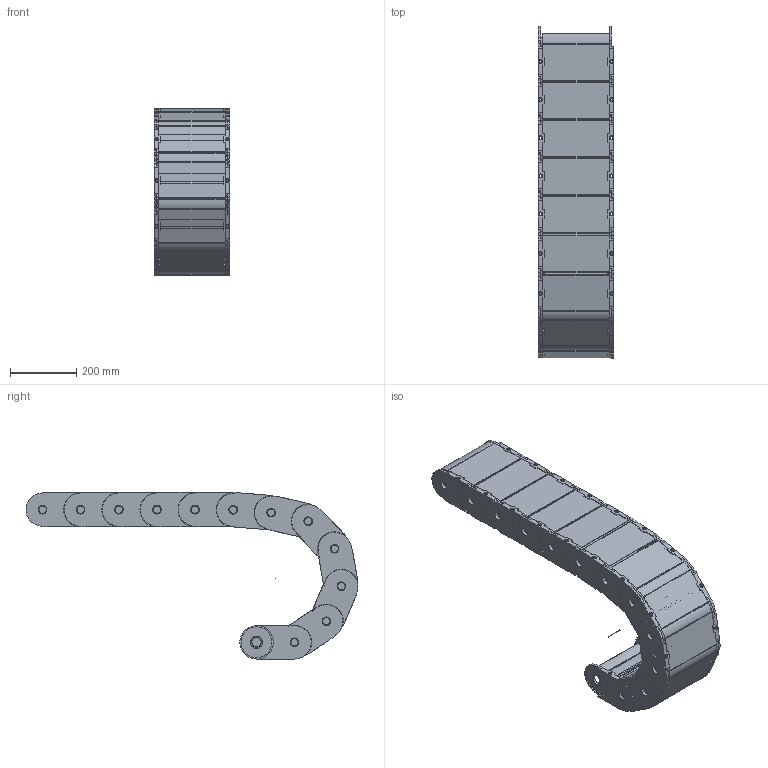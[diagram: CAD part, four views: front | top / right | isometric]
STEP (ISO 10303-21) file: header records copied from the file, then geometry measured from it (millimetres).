
FILE_DESCRIPTION((''),'2;1');
FILE_NAME('C:\Uebbing\TRACE PARTS\PKK\PKK 515\PKK 515 vereinfacht.stp','2013-05-08T09:19:59',('Uebbing'),(''),'Autodesk Inventor 10','Autodesk Inventor 10','');
FILE_SCHEMA(('AUTOMOTIVE_DESIGN { 1 0 10303 214 1 1 1 1 }'));
Length unit declared in the file: millimetre
Products named in the file (3): PKK 515 PARAMETRISCH; Achse; PKK 515 Glied vereinfacht
Assembly tree (13 placements, depth 2):
  PKK 515 PARAMETRISCH
    Achse
    PKK 515 Glied vereinfacht  x12
Bounding box: 228 x 1001.39 x 504 mm (x, y, z)
Volume: 4689606.2 mm3; surface area: 2627743.6 mm2
Topology: 13 solids, 13 shells, 3447 faces, 9328 edges, 5895 vertices
Faces by surface type: cylinder 1213, plane 962, bspline 816, torus 456
Full cylindrical faces by diameter (mm): 1 x1, 8 x24, 24 x24, 30 x48, 37 x48, 93 x48
Entity records: 9721 total; most frequent: CARTESIAN_POINT 2380, DIRECTION 1542, ORIENTED_EDGE 1490, EDGE_CURVE 745, AXIS2_PLACEMENT_3D 572, VERTEX_POINT 487, VECTOR 398, LINE 398
